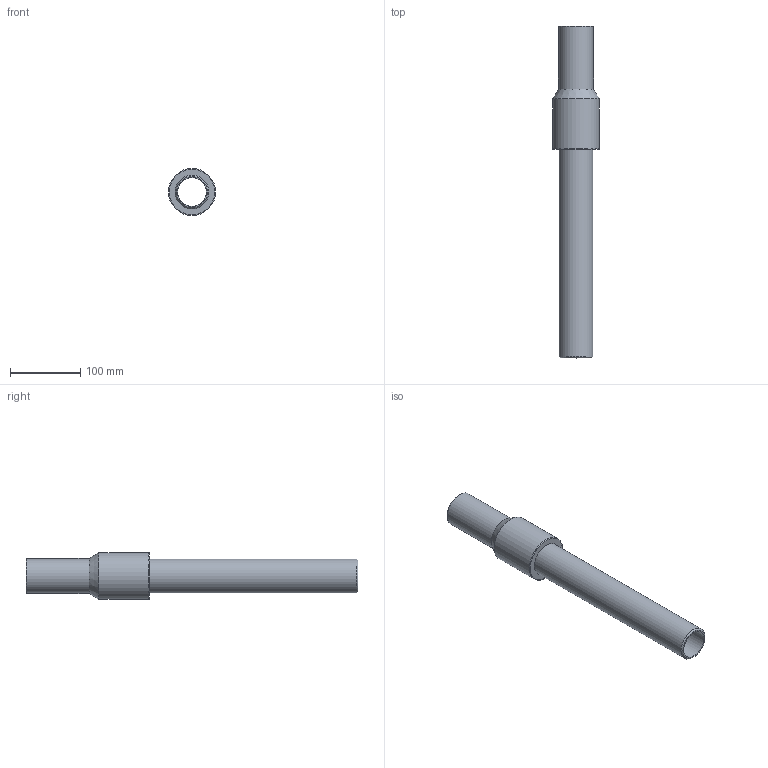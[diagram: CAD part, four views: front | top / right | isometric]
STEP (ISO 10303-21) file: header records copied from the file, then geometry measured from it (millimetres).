
FILE_DESCRIPTION(/* description */ ('Unknown'),/* implementation_level */ '2;1');
FILE_NAME(/* name */ 'RTSNP050C',/* time_stamp */ '2022-04-26T17:10:04+02:00',/* author */ ('Unknown'),/* organization */ ('Unknown'),/* preprocessor_version */ 'ST-DEVELOPER v18.1',/* originating_system */ 'Solid Edge',/* authorisation */ 'Unknown');
FILE_SCHEMA (('AUTOMOTIVE_DESIGN {1 0 10303 214 3 1 1}'));
Length unit declared in the file: millimetre
Products named in the file (3): RTSNP050C; Parte PE_; Partea ACCIAIO
Assembly tree (2 placements, depth 2):
  RTSNP050C
    Parte PE_
    Partea ACCIAIO
Bounding box: 67 x 474 x 67 mm (x, y, z)
Volume: 391056.8 mm3; surface area: 163853.9 mm2
Topology: 2 solids, 2 shells, 15 faces, 27 edges, 17 vertices
Faces by surface type: cylinder 6, plane 5, cone 2, torus 2
Full cylindrical faces by diameter (mm): 40.8 x1, 40.94 x1, 48.3 x2, 50 x1, 67 x1
Entity records: 388 total; most frequent: DIRECTION 66, CARTESIAN_POINT 48, AXIS2_PLACEMENT_3D 33, ORIENTED_EDGE 30, EDGE_LOOP 30, FACE_BOUND 30, EDGE_CURVE 15, VERTEX_POINT 15
